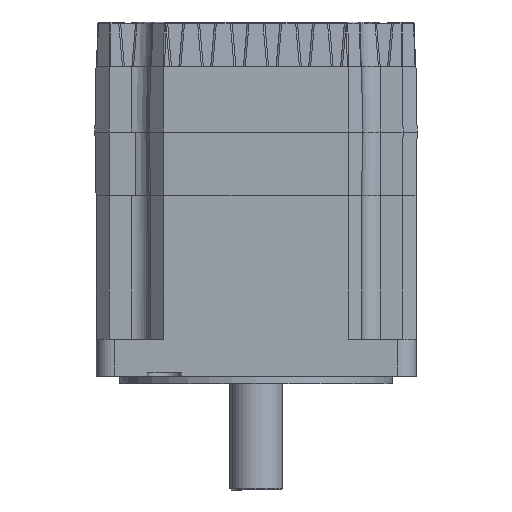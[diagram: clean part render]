
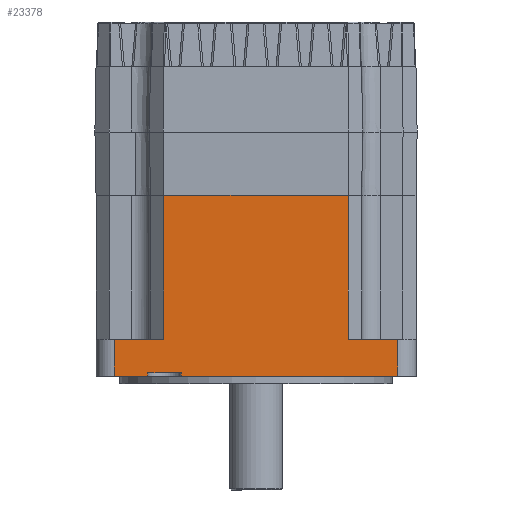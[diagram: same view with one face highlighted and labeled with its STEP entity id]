
A CAD part, left-side view. The second image highlights one B-rep face of the part: STEP entity #23378.
In plain terms, the highlighted planar face has unit normal (-1, 0, 0).
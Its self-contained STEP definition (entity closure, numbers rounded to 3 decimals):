
#222 = EDGE_CURVE ( 'NONE', #747, #58488, #31220, .T. ) ;
#360 = CARTESIAN_POINT ( 'NONE',  ( -42.9, -38., 176.743 ) ) ;
#747 = VERTEX_POINT ( 'NONE', #59594 ) ;
#1428 = VERTEX_POINT ( 'NONE', #56917 ) ;
#2415 = ORIENTED_EDGE ( 'NONE', *, *, #222, .F. ) ;
#2886 = CARTESIAN_POINT ( 'NONE',  ( -42.9, 29., 4. ) ) ;
#3012 = CARTESIAN_POINT ( 'NONE',  ( -42.9, 0., 176.743 ) ) ;
#3581 = CARTESIAN_POINT ( 'NONE',  ( -42.9, -23.3, 48.5 ) ) ;
#4487 = CARTESIAN_POINT ( 'NONE',  ( -42.9, -24.7, -127.06 ) ) ;
#5438 = VECTOR ( 'NONE', #33376, 1000. ) ;
#5637 = VECTOR ( 'NONE', #11922, 1000. ) ;
#5913 = DIRECTION ( 'NONE',  ( 0., 0., -1. ) ) ;
#5967 = CARTESIAN_POINT ( 'NONE',  ( -42.9, 20., 1. ) ) ;
#6238 = VERTEX_POINT ( 'NONE', #23598 ) ;
#6264 = LINE ( 'NONE', #28015, #5438 ) ;
#6964 = LINE ( 'NONE', #40630, #11769 ) ;
#8403 = ORIENTED_EDGE ( 'NONE', *, *, #56938, .F. ) ;
#8497 = CARTESIAN_POINT ( 'NONE',  ( -42.9, 38., 0. ) ) ;
#8557 = LINE ( 'NONE', #47768, #34121 ) ;
#9206 = VERTEX_POINT ( 'NONE', #51787 ) ;
#9774 = VECTOR ( 'NONE', #60279, 1000. ) ;
#10015 = CARTESIAN_POINT ( 'NONE',  ( -42.9, 38., 176.743 ) ) ;
#10505 = LINE ( 'NONE', #23669, #63028 ) ;
#11259 = EDGE_CURVE ( 'NONE', #1428, #9206, #39477, .T. ) ;
#11435 = CARTESIAN_POINT ( 'NONE',  ( -42.9, 29., 1. ) ) ;
#11628 = EDGE_CURVE ( 'NONE', #22092, #45107, #18554, .T. ) ;
#11718 = EDGE_CURVE ( 'NONE', #19294, #6238, #54361, .T. ) ;
#11769 = VECTOR ( 'NONE', #20112, 1000. ) ;
#11922 = DIRECTION ( 'NONE',  ( 0., 1., 0. ) ) ;
#12669 = VECTOR ( 'NONE', #62157, 1000. ) ;
#13883 = EDGE_CURVE ( 'NONE', #45107, #19294, #6264, .T. ) ;
#14401 = VECTOR ( 'NONE', #38608, 1000. ) ;
#14527 = DIRECTION ( 'NONE',  ( 0., 0., -1. ) ) ;
#14601 = VECTOR ( 'NONE', #43201, 1000. ) ;
#14906 = ORIENTED_EDGE ( 'NONE', *, *, #11259, .F. ) ;
#14916 = ORIENTED_EDGE ( 'NONE', *, *, #13883, .F. ) ;
#16296 = EDGE_CURVE ( 'NONE', #42708, #747, #10505, .T. ) ;
#16809 = CARTESIAN_POINT ( 'NONE',  ( -42.9, -38., 0. ) ) ;
#17196 = CARTESIAN_POINT ( 'NONE',  ( -42.9, 29., 0. ) ) ;
#17870 = DIRECTION ( 'NONE',  ( 0., -1., 0. ) ) ;
#18094 = DIRECTION ( 'NONE',  ( 0., 0., 1. ) ) ;
#18554 = LINE ( 'NONE', #2886, #14601 ) ;
#19294 = VERTEX_POINT ( 'NONE', #8497 ) ;
#20112 = DIRECTION ( 'NONE',  ( 0., -1., 0. ) ) ;
#22092 = VERTEX_POINT ( 'NONE', #11435 ) ;
#23378 = ADVANCED_FACE ( 'NONE', ( #31184 ), #59085, .F. ) ;
#23598 = CARTESIAN_POINT ( 'NONE',  ( -42.9, 38., 9.91 ) ) ;
#23669 = CARTESIAN_POINT ( 'NONE',  ( -42.9, 0., 9.91 ) ) ;
#26067 = AXIS2_PLACEMENT_3D ( 'NONE', #3012, #39098, #59294 ) ;
#27456 = VECTOR ( 'NONE', #14527, 1000. ) ;
#27511 = VECTOR ( 'NONE', #58800, 1000. ) ;
#28015 = CARTESIAN_POINT ( 'NONE',  ( -42.9, 0., 0. ) ) ;
#31184 = FACE_OUTER_BOUND ( 'NONE', #60659, .T. ) ;
#31220 = LINE ( 'NONE', #360, #36065 ) ;
#33376 = DIRECTION ( 'NONE',  ( 0., 1., 0. ) ) ;
#34096 = EDGE_CURVE ( 'NONE', #6238, #51761, #6964, .T. ) ;
#34121 = VECTOR ( 'NONE', #18094, 1000. ) ;
#34277 = ORIENTED_EDGE ( 'NONE', *, *, #11628, .F. ) ;
#36065 = VECTOR ( 'NONE', #5913, 1000. ) ;
#38608 = DIRECTION ( 'NONE',  ( 0., 0., 1. ) ) ;
#39098 = DIRECTION ( 'NONE',  ( 1., 0., 0. ) ) ;
#39133 = EDGE_CURVE ( 'NONE', #9206, #42708, #53722, .T. ) ;
#39477 = LINE ( 'NONE', #3581, #27511 ) ;
#40630 = CARTESIAN_POINT ( 'NONE',  ( -42.9, 0., 9.91 ) ) ;
#41495 = LINE ( 'NONE', #59490, #14401 ) ;
#42708 = VERTEX_POINT ( 'NONE', #59803 ) ;
#43201 = DIRECTION ( 'NONE',  ( 0., 0., -1. ) ) ;
#43879 = ORIENTED_EDGE ( 'NONE', *, *, #39133, .F. ) ;
#44561 = LINE ( 'NONE', #57438, #12669 ) ;
#44708 = ORIENTED_EDGE ( 'NONE', *, *, #56141, .F. ) ;
#45107 = VERTEX_POINT ( 'NONE', #17196 ) ;
#45180 = VERTEX_POINT ( 'NONE', #55008 ) ;
#47768 = CARTESIAN_POINT ( 'NONE',  ( -42.9, 20., 4. ) ) ;
#48407 = CARTESIAN_POINT ( 'NONE',  ( -42.9, 0., 1. ) ) ;
#48971 = ORIENTED_EDGE ( 'NONE', *, *, #34096, .F. ) ;
#51023 = LINE ( 'NONE', #48407, #5637 ) ;
#51761 = VERTEX_POINT ( 'NONE', #58361 ) ;
#51787 = CARTESIAN_POINT ( 'NONE',  ( -42.9, -24.7, 48.5 ) ) ;
#53722 = LINE ( 'NONE', #4487, #27456 ) ;
#54361 = LINE ( 'NONE', #10015, #9774 ) ;
#55008 = CARTESIAN_POINT ( 'NONE',  ( -42.9, 20., 0. ) ) ;
#56141 = EDGE_CURVE ( 'NONE', #60365, #22092, #51023, .T. ) ;
#56255 = EDGE_CURVE ( 'NONE', #51761, #1428, #41495, .T. ) ;
#56382 = ORIENTED_EDGE ( 'NONE', *, *, #16296, .F. ) ;
#56658 = EDGE_CURVE ( 'NONE', #58488, #45180, #44561, .T. ) ;
#56917 = CARTESIAN_POINT ( 'NONE',  ( -42.9, 24.7, 48.5 ) ) ;
#56938 = EDGE_CURVE ( 'NONE', #45180, #60365, #8557, .T. ) ;
#57438 = CARTESIAN_POINT ( 'NONE',  ( -42.9, 0., 0. ) ) ;
#58361 = CARTESIAN_POINT ( 'NONE',  ( -42.9, 24.7, 9.91 ) ) ;
#58488 = VERTEX_POINT ( 'NONE', #16809 ) ;
#58800 = DIRECTION ( 'NONE',  ( 0., -1., 0. ) ) ;
#59085 = PLANE ( 'NONE',  #26067 ) ;
#59294 = DIRECTION ( 'NONE',  ( 0., 1., 0. ) ) ;
#59349 = ORIENTED_EDGE ( 'NONE', *, *, #11718, .F. ) ;
#59490 = CARTESIAN_POINT ( 'NONE',  ( -42.9, 24.7, 176.743 ) ) ;
#59594 = CARTESIAN_POINT ( 'NONE',  ( -42.9, -38., 9.91 ) ) ;
#59803 = CARTESIAN_POINT ( 'NONE',  ( -42.9, -24.7, 9.91 ) ) ;
#60279 = DIRECTION ( 'NONE',  ( 0., 0., 1. ) ) ;
#60365 = VERTEX_POINT ( 'NONE', #5967 ) ;
#60659 = EDGE_LOOP ( 'NONE', ( #14906, #63735, #48971, #59349, #14916, #34277, #44708, #8403, #65982, #2415, #56382, #43879 ) ) ;
#62157 = DIRECTION ( 'NONE',  ( 0., 1., 0. ) ) ;
#63028 = VECTOR ( 'NONE', #17870, 1000. ) ;
#63735 = ORIENTED_EDGE ( 'NONE', *, *, #56255, .F. ) ;
#65982 = ORIENTED_EDGE ( 'NONE', *, *, #56658, .F. ) ;
